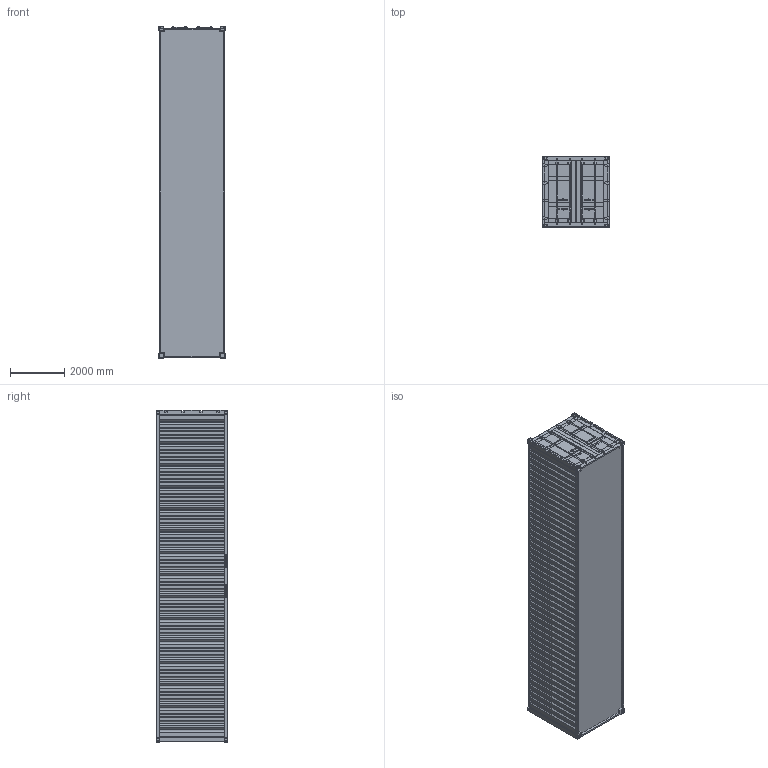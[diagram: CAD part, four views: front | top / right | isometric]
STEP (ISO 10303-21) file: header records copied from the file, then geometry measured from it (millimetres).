
FILE_DESCRIPTION(/* description */ (''),/* implementation_level */ '2;1');
FILE_NAME(/* name */ 'D:\100-HP用\物流\コンテナ\40ft.stp',/* time_stamp */ '2022-04-25T15:43:06+09:00',/* author */ ('D'),/* organization */ (''),/* preprocessor_version */ 'ST-DEVELOPER v18',/* originating_system */ 'Autodesk Inventor 2020',/* authorisation */ '');
FILE_SCHEMA (('AUTOMOTIVE_DESIGN { 1 0 10303 214 3 1 1 }'));
Length unit declared in the file: millimetre
Products named in the file (1): Part1
Bounding box: 2438 x 2591 x 12192 mm (x, y, z)
Volume: 69927021001.1 mm3; surface area: 155751391.8 mm2
Topology: 1 solids, 1 shells, 1097 faces, 3336 edges, 2088 vertices
Faces by surface type: plane 1013, cylinder 84
Full cylindrical faces by diameter (mm): 40 x12
Entity records: 36875 total; most frequent: ORIENTED_EDGE 6672, CARTESIAN_POINT 6522, DIRECTION 5724, EDGE_CURVE 3336, LINE 3144, VECTOR 3144, VERTEX_POINT 2088, AXIS2_PLACEMENT_3D 1290
